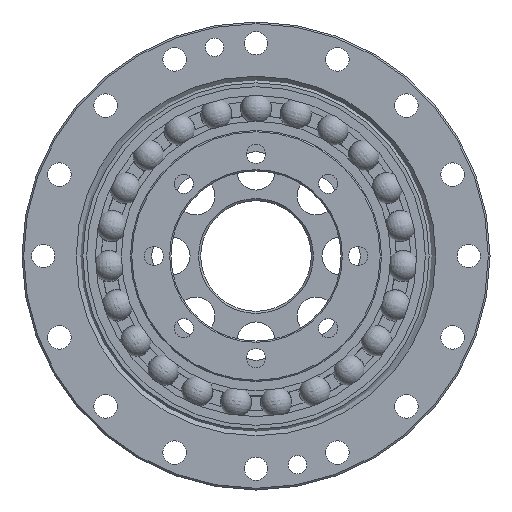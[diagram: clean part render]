
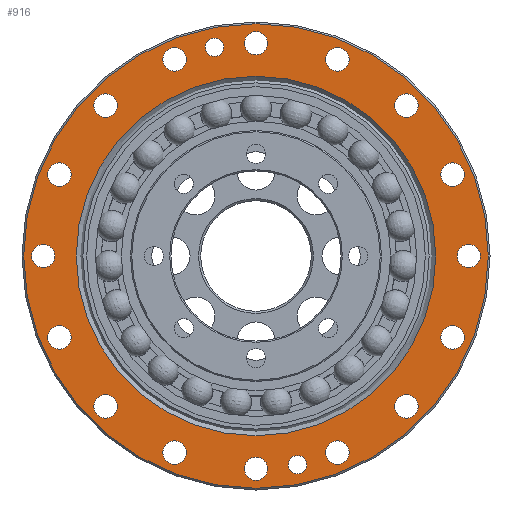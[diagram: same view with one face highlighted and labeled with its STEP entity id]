
A CAD part, left-side view. The second image highlights one B-rep face of the part: STEP entity #916.
In plain terms, the highlighted planar face has unit normal (-1, 0, 0).
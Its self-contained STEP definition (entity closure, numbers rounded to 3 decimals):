
#761=PLANE('',#4079);
#916=ADVANCED_FACE('',(#1192,#1193,#1194,#1195,#1196,#1197,#1198,#1199,
#1200,#1201,#1202,#1203,#1204,#1205,#1206,#1207,#1208,#1209,#1210,#1211),
#761,.F.);
#1192=FACE_BOUND('',#1583,.T.);
#1193=FACE_BOUND('',#1584,.T.);
#1194=FACE_BOUND('',#1585,.T.);
#1195=FACE_BOUND('',#1586,.T.);
#1196=FACE_BOUND('',#1587,.T.);
#1197=FACE_BOUND('',#1588,.T.);
#1198=FACE_BOUND('',#1589,.T.);
#1199=FACE_BOUND('',#1590,.T.);
#1200=FACE_BOUND('',#1591,.T.);
#1201=FACE_BOUND('',#1592,.T.);
#1202=FACE_BOUND('',#1593,.T.);
#1203=FACE_BOUND('',#1594,.T.);
#1204=FACE_BOUND('',#1595,.T.);
#1205=FACE_BOUND('',#1596,.T.);
#1206=FACE_BOUND('',#1597,.T.);
#1207=FACE_BOUND('',#1598,.T.);
#1208=FACE_BOUND('',#1599,.T.);
#1209=FACE_BOUND('',#1600,.T.);
#1210=FACE_BOUND('',#1601,.T.);
#1211=FACE_BOUND('',#1602,.T.);
#1583=EDGE_LOOP('',(#2465));
#1584=EDGE_LOOP('',(#2466));
#1585=EDGE_LOOP('',(#2467));
#1586=EDGE_LOOP('',(#2468));
#1587=EDGE_LOOP('',(#2469));
#1588=EDGE_LOOP('',(#2470));
#1589=EDGE_LOOP('',(#2471));
#1590=EDGE_LOOP('',(#2472));
#1591=EDGE_LOOP('',(#2473));
#1592=EDGE_LOOP('',(#2474));
#1593=EDGE_LOOP('',(#2475));
#1594=EDGE_LOOP('',(#2476));
#1595=EDGE_LOOP('',(#2477));
#1596=EDGE_LOOP('',(#2478));
#1597=EDGE_LOOP('',(#2479));
#1598=EDGE_LOOP('',(#2480));
#1599=EDGE_LOOP('',(#2481));
#1600=EDGE_LOOP('',(#2482));
#1601=EDGE_LOOP('',(#2483));
#1602=EDGE_LOOP('',(#2484));
#2465=ORIENTED_EDGE('',*,*,#3348,.T.);
#2466=ORIENTED_EDGE('',*,*,#3349,.T.);
#2467=ORIENTED_EDGE('',*,*,#3350,.T.);
#2468=ORIENTED_EDGE('',*,*,#3351,.T.);
#2469=ORIENTED_EDGE('',*,*,#3352,.T.);
#2470=ORIENTED_EDGE('',*,*,#3353,.T.);
#2471=ORIENTED_EDGE('',*,*,#3354,.T.);
#2472=ORIENTED_EDGE('',*,*,#3355,.T.);
#2473=ORIENTED_EDGE('',*,*,#3356,.T.);
#2474=ORIENTED_EDGE('',*,*,#3357,.T.);
#2475=ORIENTED_EDGE('',*,*,#3358,.T.);
#2476=ORIENTED_EDGE('',*,*,#3359,.T.);
#2477=ORIENTED_EDGE('',*,*,#3360,.T.);
#2478=ORIENTED_EDGE('',*,*,#3361,.T.);
#2479=ORIENTED_EDGE('',*,*,#3362,.T.);
#2480=ORIENTED_EDGE('',*,*,#3363,.T.);
#2481=ORIENTED_EDGE('',*,*,#3364,.T.);
#2482=ORIENTED_EDGE('',*,*,#3365,.T.);
#2483=ORIENTED_EDGE('',*,*,#3366,.T.);
#2484=ORIENTED_EDGE('',*,*,#3367,.T.);
#2885=VERTEX_POINT('',#8244);
#2886=VERTEX_POINT('',#8246);
#2887=VERTEX_POINT('',#8248);
#2888=VERTEX_POINT('',#8250);
#2889=VERTEX_POINT('',#8252);
#2890=VERTEX_POINT('',#8254);
#2891=VERTEX_POINT('',#8256);
#2892=VERTEX_POINT('',#8258);
#2893=VERTEX_POINT('',#8260);
#2894=VERTEX_POINT('',#8262);
#2895=VERTEX_POINT('',#8264);
#2896=VERTEX_POINT('',#8266);
#2897=VERTEX_POINT('',#8268);
#2898=VERTEX_POINT('',#8270);
#2899=VERTEX_POINT('',#8272);
#2900=VERTEX_POINT('',#8274);
#2901=VERTEX_POINT('',#8276);
#2902=VERTEX_POINT('',#8278);
#2903=VERTEX_POINT('',#8280);
#2904=VERTEX_POINT('',#8282);
#3348=EDGE_CURVE('',#2885,#2885,#3605,.T.);
#3349=EDGE_CURVE('',#2886,#2886,#3606,.T.);
#3350=EDGE_CURVE('',#2887,#2887,#3607,.T.);
#3351=EDGE_CURVE('',#2888,#2888,#3608,.T.);
#3352=EDGE_CURVE('',#2889,#2889,#3609,.T.);
#3353=EDGE_CURVE('',#2890,#2890,#3610,.T.);
#3354=EDGE_CURVE('',#2891,#2891,#3611,.T.);
#3355=EDGE_CURVE('',#2892,#2892,#3612,.T.);
#3356=EDGE_CURVE('',#2893,#2893,#3613,.T.);
#3357=EDGE_CURVE('',#2894,#2894,#3614,.T.);
#3358=EDGE_CURVE('',#2895,#2895,#3615,.T.);
#3359=EDGE_CURVE('',#2896,#2896,#3616,.T.);
#3360=EDGE_CURVE('',#2897,#2897,#3617,.T.);
#3361=EDGE_CURVE('',#2898,#2898,#3618,.T.);
#3362=EDGE_CURVE('',#2899,#2899,#3619,.T.);
#3363=EDGE_CURVE('',#2900,#2900,#3620,.T.);
#3364=EDGE_CURVE('',#2901,#2901,#3621,.T.);
#3365=EDGE_CURVE('',#2902,#2902,#3622,.T.);
#3366=EDGE_CURVE('',#2903,#2903,#3623,.T.);
#3367=EDGE_CURVE('',#2904,#2904,#3624,.T.);
#3605=CIRCLE('',#4059,42.25);
#3606=CIRCLE('',#4060,54.6);
#3607=CIRCLE('',#4061,2.15);
#3608=CIRCLE('',#4062,2.15);
#3609=CIRCLE('',#4063,2.75);
#3610=CIRCLE('',#4064,2.75);
#3611=CIRCLE('',#4065,2.75);
#3612=CIRCLE('',#4066,2.75);
#3613=CIRCLE('',#4067,2.75);
#3614=CIRCLE('',#4068,2.75);
#3615=CIRCLE('',#4069,2.75);
#3616=CIRCLE('',#4070,2.75);
#3617=CIRCLE('',#4071,2.75);
#3618=CIRCLE('',#4072,2.75);
#3619=CIRCLE('',#4073,2.75);
#3620=CIRCLE('',#4074,2.75);
#3621=CIRCLE('',#4075,2.75);
#3622=CIRCLE('',#4076,2.75);
#3623=CIRCLE('',#4077,2.75);
#3624=CIRCLE('',#4078,2.75);
#4059=AXIS2_PLACEMENT_3D('',#8243,#4868,#4869);
#4060=AXIS2_PLACEMENT_3D('',#8245,#4870,#4871);
#4061=AXIS2_PLACEMENT_3D('',#8247,#4872,#4873);
#4062=AXIS2_PLACEMENT_3D('',#8249,#4874,#4875);
#4063=AXIS2_PLACEMENT_3D('',#8251,#4876,#4877);
#4064=AXIS2_PLACEMENT_3D('',#8253,#4878,#4879);
#4065=AXIS2_PLACEMENT_3D('',#8255,#4880,#4881);
#4066=AXIS2_PLACEMENT_3D('',#8257,#4882,#4883);
#4067=AXIS2_PLACEMENT_3D('',#8259,#4884,#4885);
#4068=AXIS2_PLACEMENT_3D('',#8261,#4886,#4887);
#4069=AXIS2_PLACEMENT_3D('',#8263,#4888,#4889);
#4070=AXIS2_PLACEMENT_3D('',#8265,#4890,#4891);
#4071=AXIS2_PLACEMENT_3D('',#8267,#4892,#4893);
#4072=AXIS2_PLACEMENT_3D('',#8269,#4894,#4895);
#4073=AXIS2_PLACEMENT_3D('',#8271,#4896,#4897);
#4074=AXIS2_PLACEMENT_3D('',#8273,#4898,#4899);
#4075=AXIS2_PLACEMENT_3D('',#8275,#4900,#4901);
#4076=AXIS2_PLACEMENT_3D('',#8277,#4902,#4903);
#4077=AXIS2_PLACEMENT_3D('',#8279,#4904,#4905);
#4078=AXIS2_PLACEMENT_3D('',#8281,#4906,#4907);
#4079=AXIS2_PLACEMENT_3D('',#8283,#4908,#4909);
#4868=DIRECTION('',(1.,0.,0.));
#4869=DIRECTION('',(0.,0.,-1.));
#4870=DIRECTION('',(-1.,0.,0.));
#4871=DIRECTION('',(0.,0.,-1.));
#4872=DIRECTION('',(1.,0.,0.));
#4873=DIRECTION('',(0.,0.,-1.));
#4874=DIRECTION('',(1.,0.,0.));
#4875=DIRECTION('',(0.,0.,-1.));
#4876=DIRECTION('',(1.,0.,0.));
#4877=DIRECTION('',(0.,0.,-1.));
#4878=DIRECTION('',(1.,0.,0.));
#4879=DIRECTION('',(0.,0.,-1.));
#4880=DIRECTION('',(1.,0.,0.));
#4881=DIRECTION('',(0.,0.,-1.));
#4882=DIRECTION('',(1.,0.,0.));
#4883=DIRECTION('',(0.,0.,-1.));
#4884=DIRECTION('',(1.,0.,0.));
#4885=DIRECTION('',(0.,0.,-1.));
#4886=DIRECTION('',(1.,0.,0.));
#4887=DIRECTION('',(0.,0.,-1.));
#4888=DIRECTION('',(1.,0.,0.));
#4889=DIRECTION('',(0.,0.,-1.));
#4890=DIRECTION('',(1.,0.,0.));
#4891=DIRECTION('',(0.,0.,-1.));
#4892=DIRECTION('',(1.,0.,0.));
#4893=DIRECTION('',(0.,0.,-1.));
#4894=DIRECTION('',(1.,0.,0.));
#4895=DIRECTION('',(0.,0.,-1.));
#4896=DIRECTION('',(1.,0.,0.));
#4897=DIRECTION('',(0.,0.,-1.));
#4898=DIRECTION('',(1.,0.,0.));
#4899=DIRECTION('',(0.,0.,-1.));
#4900=DIRECTION('',(1.,0.,0.));
#4901=DIRECTION('',(0.,0.,-1.));
#4902=DIRECTION('',(1.,0.,0.));
#4903=DIRECTION('',(0.,0.,-1.));
#4904=DIRECTION('',(1.,0.,0.));
#4905=DIRECTION('',(0.,0.,-1.));
#4906=DIRECTION('',(1.,0.,0.));
#4907=DIRECTION('',(0.,0.,-1.));
#4908=DIRECTION('',(1.,0.,0.));
#4909=DIRECTION('',(0.,0.,-1.));
#8243=CARTESIAN_POINT('',(0.,0.,0.));
#8244=CARTESIAN_POINT('',(0.,0.,-42.25));
#8245=CARTESIAN_POINT('',(0.,0.,0.));
#8246=CARTESIAN_POINT('',(0.,0.,-54.6));
#8247=CARTESIAN_POINT('',(0.,-9.755,-49.039));
#8248=CARTESIAN_POINT('',(0.,-9.755,-51.189));
#8249=CARTESIAN_POINT('',(0.,9.755,49.039));
#8250=CARTESIAN_POINT('',(0.,9.755,46.889));
#8251=CARTESIAN_POINT('',(0.,-35.355,35.355));
#8252=CARTESIAN_POINT('',(0.,-35.355,32.605));
#8253=CARTESIAN_POINT('',(0.,-19.134,46.194));
#8254=CARTESIAN_POINT('',(0.,-19.134,43.444));
#8255=CARTESIAN_POINT('',(0.,0.,50.));
#8256=CARTESIAN_POINT('',(0.,0.,47.25));
#8257=CARTESIAN_POINT('',(0.,19.134,46.194));
#8258=CARTESIAN_POINT('',(0.,19.134,43.444));
#8259=CARTESIAN_POINT('',(0.,35.355,35.355));
#8260=CARTESIAN_POINT('',(0.,35.355,32.605));
#8261=CARTESIAN_POINT('',(0.,46.194,19.134));
#8262=CARTESIAN_POINT('',(0.,46.194,16.384));
#8263=CARTESIAN_POINT('',(0.,50.,0.));
#8264=CARTESIAN_POINT('',(0.,50.,-2.75));
#8265=CARTESIAN_POINT('',(0.,46.194,-19.134));
#8266=CARTESIAN_POINT('',(0.,46.194,-21.884));
#8267=CARTESIAN_POINT('',(0.,35.355,-35.355));
#8268=CARTESIAN_POINT('',(0.,35.355,-38.105));
#8269=CARTESIAN_POINT('',(0.,19.134,-46.194));
#8270=CARTESIAN_POINT('',(0.,19.134,-48.944));
#8271=CARTESIAN_POINT('',(0.,0.,-50.));
#8272=CARTESIAN_POINT('',(0.,0.,-52.75));
#8273=CARTESIAN_POINT('',(0.,-19.134,-46.194));
#8274=CARTESIAN_POINT('',(0.,-19.134,-48.944));
#8275=CARTESIAN_POINT('',(0.,-35.355,-35.355));
#8276=CARTESIAN_POINT('',(0.,-35.355,-38.105));
#8277=CARTESIAN_POINT('',(0.,-46.194,-19.134));
#8278=CARTESIAN_POINT('',(0.,-46.194,-21.884));
#8279=CARTESIAN_POINT('',(0.,-50.,0.));
#8280=CARTESIAN_POINT('',(0.,-50.,-2.75));
#8281=CARTESIAN_POINT('',(0.,-46.194,19.134));
#8282=CARTESIAN_POINT('',(0.,-46.194,16.384));
#8283=CARTESIAN_POINT('',(0.,0.,55.));
